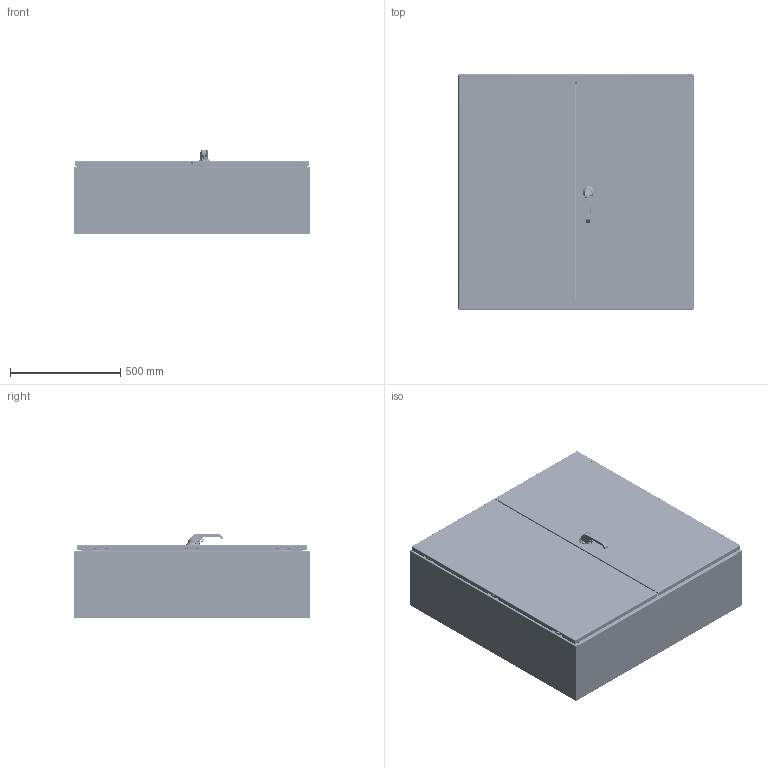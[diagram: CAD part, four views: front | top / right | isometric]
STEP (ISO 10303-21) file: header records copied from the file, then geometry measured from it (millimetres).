
FILE_DESCRIPTION((''),'2;1');
FILE_NAME('MODEL-319_ASM','2022-12-21T14:57:08',('Tony.Gonzales'),('SAGINAW CONTROL & ENGINEERING'),'CREO PARAMETRIC BY PTC INC, 2021284','CREO PARAMETRIC BY PTC INC, 2021284','');
FILE_SCHEMA(('AUTOMOTIVE_DESIGN { 1 0 10303 214 1 1 1 1 }'));
Length unit declared in the file: inch
Products named in the file (54): MODEL-319-BDY; MODEL-319-TP; MODEL-319-BTM; MODEL-319-MSTR; 100837; 100882; 111267; MODEL-319-ROD-UPR; 128146; 128145; 128144; 102482; MODEL-319-ROD-UPR_ASM; 128143; 112504; MODEL-319-ROD-LWR; MODEL-319-ROD-LWR_ASM; 100955_HANDLE; 100955_HANDLE_INSERT; 100955_SHAFT_CAM; 100955_ADAPTER_CAM; 100955_NUT_CAM; 100955_BASE; 100955_O-RING; 100955_WASHER_SEALING; 100955_NUT_MOUNTING_LARGE; 100955_NUT_MOUNTING_SMALL; 100955_SCREW_SMALL; 100955_INSERT; 100955_PADLOCK_CATCH; 100955_STOP_CAM; 100955_ASM; 128142; 100030; 128142_ASM; MODEL-319-PR-GSK-M; 126391; 126391_ASM; 126393; 102483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
Assembly tree (128 placements, depth 4):
  MODEL-319_ASM
    MODEL-319-BDY
    MODEL-319-TP
    MODEL-319-BTM
    MODEL-319-MASTER-DR-ASSY_ASM
      MODEL-319-MSTR
      100837  x5
      100882  x4
      111267
      MODEL-319-ROD-UPR_ASM
        MODEL-319-ROD-UPR
        128146
        128145
        128144
        102482  x2
      128143  x2
      112504  x2
      MODEL-319-ROD-LWR_ASM
        MODEL-319-ROD-LWR
        128146
        128145
        128144
        102482  x2
      100955_ASM
        100955_HANDLE
        100955_HANDLE_INSERT
        100955_SHAFT_CAM
        100955_ADAPTER_CAM
        100955_NUT_CAM
        100955_BASE
        100955_O-RING
        100955_WASHER_SEALING
        100955_NUT_MOUNTING_LARGE
        100955_NUT_MOUNTING_SMALL
        100955_SCREW_SMALL
        100955_INSERT
        100955_PADLOCK_CATCH
        100955_STOP_CAM
      128142_ASM
        128142
        100030  x2
      MODEL-319-PR-GSK-M
      126391_ASM  x3
        126391
      126393  x3
      102483  x9
      101226  x3
      101376  x3
      102140  x3
    MODEL-319-SLAVE-DR-ASSY_ASM
      MODEL-319-SLV
      100837
      MODEL-319-PR-GSK-S
      126391_ASM  x3
        126391
      126393  x3
      102483  x9
      101226  x3
      101376  x3
      102140  x3
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Bounding box: 1066.8 x 1066.8 x 382.23 mm (x, y, z)
Volume: 12028524.7 mm3; surface area: 10814125.4 mm2
Topology: 126 solids, 126 shells, 8513 faces, 21805 edges, 13604 vertices
Faces by surface type: plane 3286, cylinder 2421, bspline 1235, torus 681, cone 634, sphere 256
Entity records: 225704 total; most frequent: CARTESIAN_POINT 76638, ORIENTED_EDGE 22772, DIRECTION 21098, PRESENTATION_STYLE_ASSIGNMENT 11549, STYLED_ITEM 11432, CURVE_STYLE 11386, EDGE_CURVE 11386, AXIS2_PLACEMENT_3D 7854
